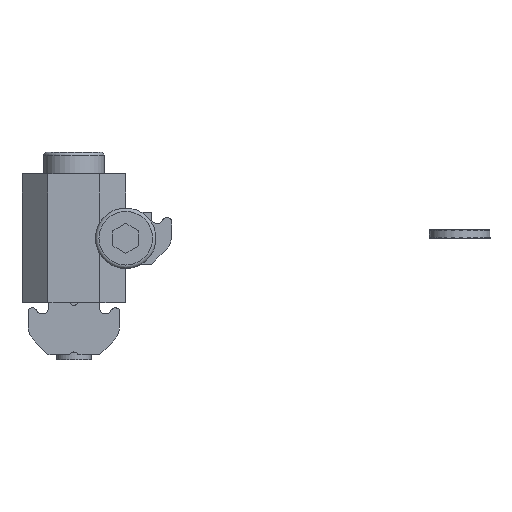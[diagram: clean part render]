
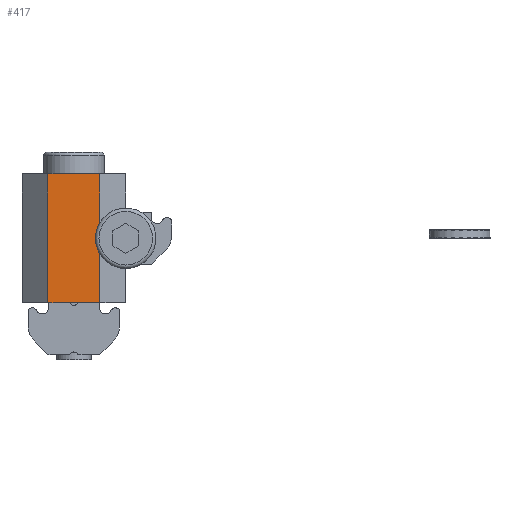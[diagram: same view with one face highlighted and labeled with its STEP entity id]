
A CAD part, left-side view. The second image highlights one B-rep face of the part: STEP entity #417.
In plain terms, the highlighted planar face has unit normal (-1, 0, 0).
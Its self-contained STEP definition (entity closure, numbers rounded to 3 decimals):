
#417 = ADVANCED_FACE( '', ( #977 ), #978, .F. );
#977 = FACE_OUTER_BOUND( '', #1677, .T. );
#978 = PLANE( '', #1678 );
#1677 = EDGE_LOOP( '', ( #2992, #2993, #2994, #2995 ) );
#1678 = AXIS2_PLACEMENT_3D( '', #2996, #2997, #2998 );
#2992 = ORIENTED_EDGE( '', *, *, #4845, .F. );
#2993 = ORIENTED_EDGE( '', *, *, #4895, .T. );
#2994 = ORIENTED_EDGE( '', *, *, #4459, .T. );
#2995 = ORIENTED_EDGE( '', *, *, #4896, .T. );
#2996 = CARTESIAN_POINT( '', ( -12.5, 12., -7.45 ) );
#2997 = DIRECTION( '', ( 1., 0., 0. ) );
#2998 = DIRECTION( '', ( 0., 0., -1. ) );
#4459 = EDGE_CURVE( '', #5456, #5454, #5457, .T. );
#4845 = EDGE_CURVE( '', #6114, #6116, #6117, .T. );
#4895 = EDGE_CURVE( '', #6114, #5456, #6188, .T. );
#4896 = EDGE_CURVE( '', #5454, #6116, #6189, .T. );
#5454 = VERTEX_POINT( '', #7100 );
#5456 = VERTEX_POINT( '', #7103 );
#5457 = LINE( '', #7104, #7105 );
#6114 = VERTEX_POINT( '', #8005 );
#6116 = VERTEX_POINT( '', #8008 );
#6117 = LINE( '', #8009, #8010 );
#6188 = LINE( '', #8109, #8110 );
#6189 = LINE( '', #8111, #8112 );
#7100 = CARTESIAN_POINT( '', ( -12.5, 3., -7.45 ) );
#7103 = CARTESIAN_POINT( '', ( -12.5, 9., -7.45 ) );
#7104 = CARTESIAN_POINT( '', ( -12.5, 12., -7.45 ) );
#7105 = VECTOR( '', #8934, 1000. );
#8005 = CARTESIAN_POINT( '', ( -12.5, 9., 7.45 ) );
#8008 = CARTESIAN_POINT( '', ( -12.5, 3., 7.45 ) );
#8009 = CARTESIAN_POINT( '', ( -12.5, 12., 7.45 ) );
#8010 = VECTOR( '', #9503, 1000. );
#8109 = CARTESIAN_POINT( '', ( -12.5, 9., -7.45 ) );
#8110 = VECTOR( '', #9553, 1000. );
#8111 = CARTESIAN_POINT( '', ( -12.5, 3., -7.45 ) );
#8112 = VECTOR( '', #9554, 1000. );
#8934 = DIRECTION( '', ( 0., -1., 0. ) );
#9503 = DIRECTION( '', ( 0., -1., 0. ) );
#9553 = DIRECTION( '', ( 0., 0., -1. ) );
#9554 = DIRECTION( '', ( 0., 0., 1. ) );
